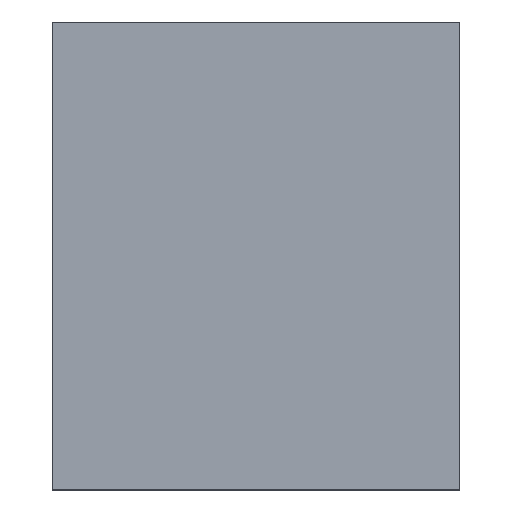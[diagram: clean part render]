
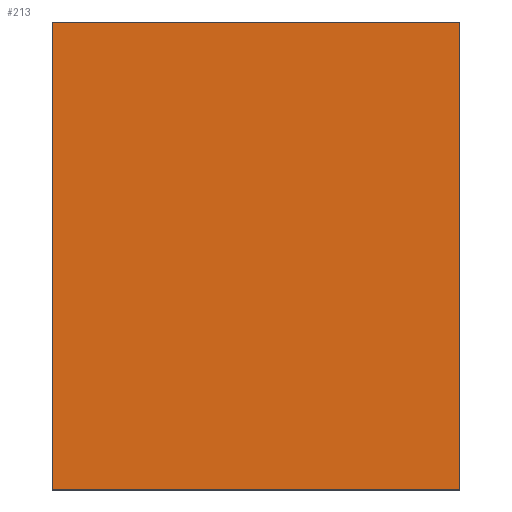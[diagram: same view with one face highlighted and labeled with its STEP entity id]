
A CAD part, top view. The second image highlights one B-rep face of the part: STEP entity #213.
In plain terms, the highlighted planar face has unit normal (0, 0, 1).
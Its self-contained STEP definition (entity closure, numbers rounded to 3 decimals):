
#24 = VERTEX_POINT('',#25);
#25 = CARTESIAN_POINT('',(0.,0.,30.956));
#32 = PLANE('',#33);
#33 = AXIS2_PLACEMENT_3D('',#34,#35,#36);
#34 = CARTESIAN_POINT('',(0.,0.,0.));
#35 = DIRECTION('',(1.,0.,0.));
#36 = DIRECTION('',(0.,0.,1.));
#44 = PLANE('',#45);
#45 = AXIS2_PLACEMENT_3D('',#46,#47,#48);
#46 = CARTESIAN_POINT('',(0.,0.,0.));
#47 = DIRECTION('',(0.,1.,0.));
#48 = DIRECTION('',(0.,0.,1.));
#85 = VERTEX_POINT('',#86);
#86 = CARTESIAN_POINT('',(0.,43.656,30.956));
#100 = PLANE('',#101);
#101 = AXIS2_PLACEMENT_3D('',#102,#103,#104);
#102 = CARTESIAN_POINT('',(0.,43.656,0.));
#103 = DIRECTION('',(0.,1.,0.));
#104 = DIRECTION('',(0.,0.,1.));
#112 = EDGE_CURVE('',#24,#85,#113,.T.);
#113 = SURFACE_CURVE('',#114,(#118,#125),.PCURVE_S1.);
#114 = LINE('',#115,#116);
#115 = CARTESIAN_POINT('',(0.,0.,30.956));
#116 = VECTOR('',#117,1.);
#117 = DIRECTION('',(0.,1.,0.));
#118 = PCURVE('',#32,#119);
#119 = DEFINITIONAL_REPRESENTATION('',(#120),#124);
#120 = LINE('',#121,#122);
#121 = CARTESIAN_POINT('',(30.956,0.));
#122 = VECTOR('',#123,1.);
#123 = DIRECTION('',(0.,-1.));
#124 = ( GEOMETRIC_REPRESENTATION_CONTEXT(2) 
PARAMETRIC_REPRESENTATION_CONTEXT() REPRESENTATION_CONTEXT('2D SPACE',''
  ) );
#125 = PCURVE('',#126,#131);
#126 = PLANE('',#127);
#127 = AXIS2_PLACEMENT_3D('',#128,#129,#130);
#128 = CARTESIAN_POINT('',(0.,0.,30.956));
#129 = DIRECTION('',(0.,0.,1.));
#130 = DIRECTION('',(1.,0.,0.));
#131 = DEFINITIONAL_REPRESENTATION('',(#132),#136);
#132 = LINE('',#133,#134);
#133 = CARTESIAN_POINT('',(0.,0.));
#134 = VECTOR('',#135,1.);
#135 = DIRECTION('',(0.,1.));
#136 = ( GEOMETRIC_REPRESENTATION_CONTEXT(2) 
PARAMETRIC_REPRESENTATION_CONTEXT() REPRESENTATION_CONTEXT('2D SPACE',''
  ) );
#165 = EDGE_CURVE('',#24,#166,#168,.T.);
#166 = VERTEX_POINT('',#167);
#167 = CARTESIAN_POINT('',(38.1,0.,30.956));
#168 = SURFACE_CURVE('',#169,(#173,#180),.PCURVE_S1.);
#169 = LINE('',#170,#171);
#170 = CARTESIAN_POINT('',(0.,0.,30.956));
#171 = VECTOR('',#172,1.);
#172 = DIRECTION('',(1.,0.,0.));
#173 = PCURVE('',#44,#174);
#174 = DEFINITIONAL_REPRESENTATION('',(#175),#179);
#175 = LINE('',#176,#177);
#176 = CARTESIAN_POINT('',(30.956,0.));
#177 = VECTOR('',#178,1.);
#178 = DIRECTION('',(0.,1.));
#179 = ( GEOMETRIC_REPRESENTATION_CONTEXT(2) 
PARAMETRIC_REPRESENTATION_CONTEXT() REPRESENTATION_CONTEXT('2D SPACE',''
  ) );
#180 = PCURVE('',#126,#181);
#181 = DEFINITIONAL_REPRESENTATION('',(#182),#186);
#182 = LINE('',#183,#184);
#183 = CARTESIAN_POINT('',(0.,0.));
#184 = VECTOR('',#185,1.);
#185 = DIRECTION('',(1.,0.));
#186 = ( GEOMETRIC_REPRESENTATION_CONTEXT(2) 
PARAMETRIC_REPRESENTATION_CONTEXT() REPRESENTATION_CONTEXT('2D SPACE',''
  ) );
#202 = PLANE('',#203);
#203 = AXIS2_PLACEMENT_3D('',#204,#205,#206);
#204 = CARTESIAN_POINT('',(38.1,0.,0.));
#205 = DIRECTION('',(1.,0.,0.));
#206 = DIRECTION('',(0.,0.,1.));
#213 = ADVANCED_FACE('',(#214),#126,.T.);
#214 = FACE_BOUND('',#215,.T.);
#215 = EDGE_LOOP('',(#216,#217,#218,#241));
#216 = ORIENTED_EDGE('',*,*,#112,.F.);
#217 = ORIENTED_EDGE('',*,*,#165,.T.);
#218 = ORIENTED_EDGE('',*,*,#219,.T.);
#219 = EDGE_CURVE('',#166,#220,#222,.T.);
#220 = VERTEX_POINT('',#221);
#221 = CARTESIAN_POINT('',(38.1,43.656,30.956));
#222 = SURFACE_CURVE('',#223,(#227,#234),.PCURVE_S1.);
#223 = LINE('',#224,#225);
#224 = CARTESIAN_POINT('',(38.1,0.,30.956));
#225 = VECTOR('',#226,1.);
#226 = DIRECTION('',(0.,1.,0.));
#227 = PCURVE('',#126,#228);
#228 = DEFINITIONAL_REPRESENTATION('',(#229),#233);
#229 = LINE('',#230,#231);
#230 = CARTESIAN_POINT('',(38.1,0.));
#231 = VECTOR('',#232,1.);
#232 = DIRECTION('',(0.,1.));
#233 = ( GEOMETRIC_REPRESENTATION_CONTEXT(2) 
PARAMETRIC_REPRESENTATION_CONTEXT() REPRESENTATION_CONTEXT('2D SPACE',''
  ) );
#234 = PCURVE('',#202,#235);
#235 = DEFINITIONAL_REPRESENTATION('',(#236),#240);
#236 = LINE('',#237,#238);
#237 = CARTESIAN_POINT('',(30.956,0.));
#238 = VECTOR('',#239,1.);
#239 = DIRECTION('',(0.,-1.));
#240 = ( GEOMETRIC_REPRESENTATION_CONTEXT(2) 
PARAMETRIC_REPRESENTATION_CONTEXT() REPRESENTATION_CONTEXT('2D SPACE',''
  ) );
#241 = ORIENTED_EDGE('',*,*,#242,.F.);
#242 = EDGE_CURVE('',#85,#220,#243,.T.);
#243 = SURFACE_CURVE('',#244,(#248,#255),.PCURVE_S1.);
#244 = LINE('',#245,#246);
#245 = CARTESIAN_POINT('',(0.,43.656,30.956));
#246 = VECTOR('',#247,1.);
#247 = DIRECTION('',(1.,0.,0.));
#248 = PCURVE('',#126,#249);
#249 = DEFINITIONAL_REPRESENTATION('',(#250),#254);
#250 = LINE('',#251,#252);
#251 = CARTESIAN_POINT('',(0.,43.656));
#252 = VECTOR('',#253,1.);
#253 = DIRECTION('',(1.,0.));
#254 = ( GEOMETRIC_REPRESENTATION_CONTEXT(2) 
PARAMETRIC_REPRESENTATION_CONTEXT() REPRESENTATION_CONTEXT('2D SPACE',''
  ) );
#255 = PCURVE('',#100,#256);
#256 = DEFINITIONAL_REPRESENTATION('',(#257),#261);
#257 = LINE('',#258,#259);
#258 = CARTESIAN_POINT('',(30.956,0.));
#259 = VECTOR('',#260,1.);
#260 = DIRECTION('',(0.,1.));
#261 = ( GEOMETRIC_REPRESENTATION_CONTEXT(2) 
PARAMETRIC_REPRESENTATION_CONTEXT() REPRESENTATION_CONTEXT('2D SPACE',''
  ) );
